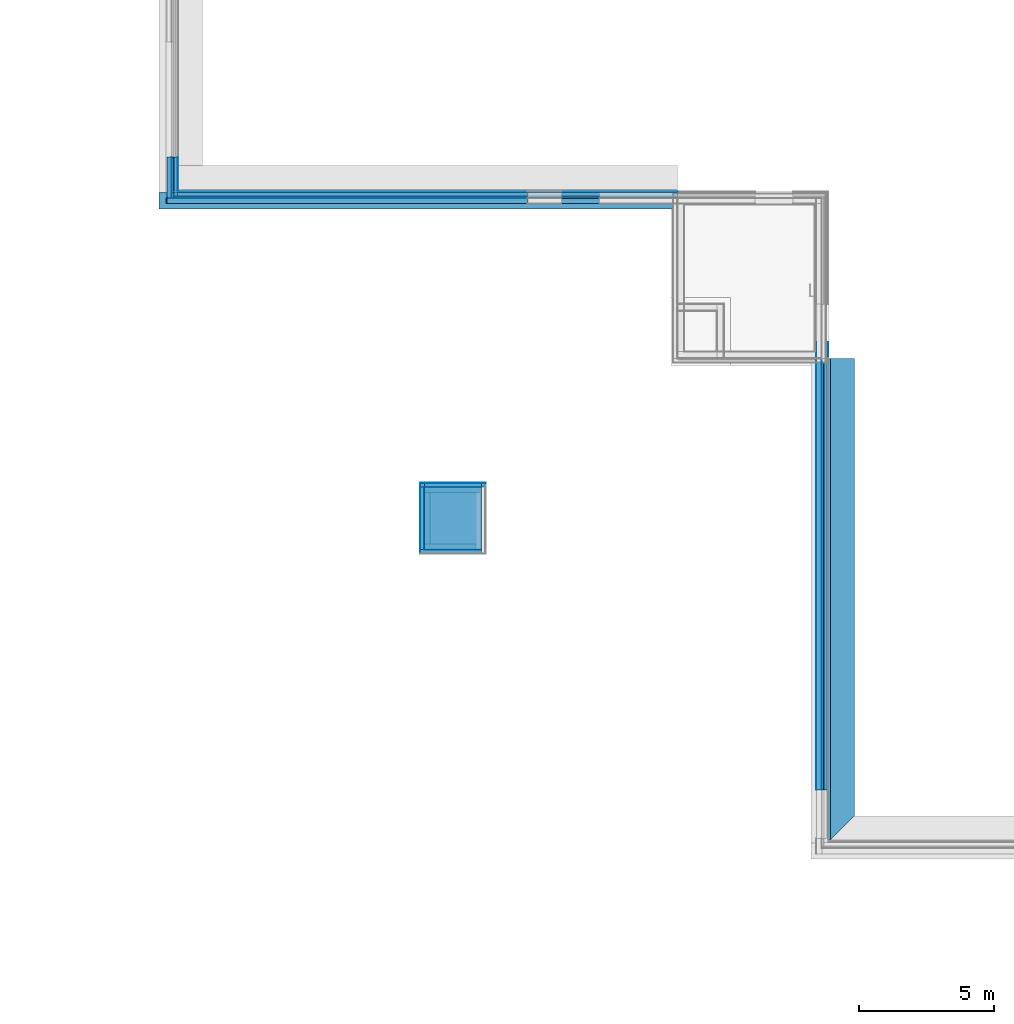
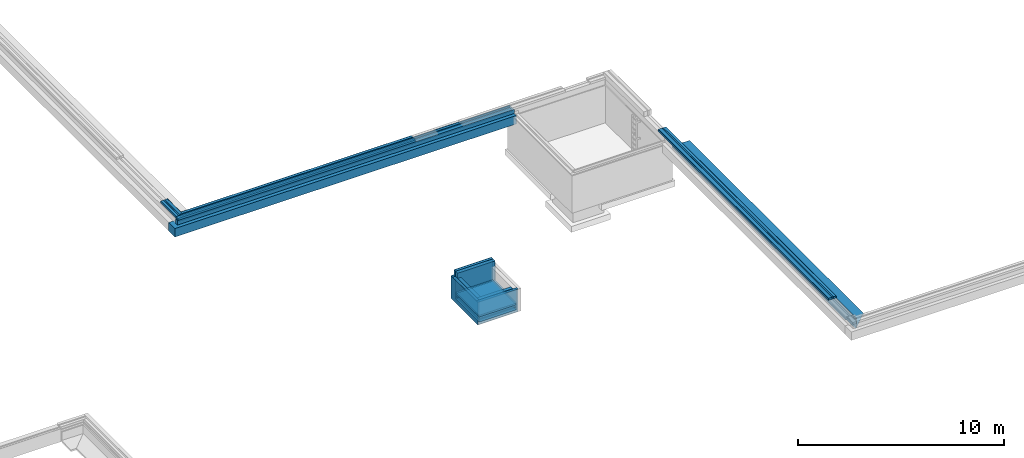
# One storey, part 6 of 17: 44 building element parts, 9 elements without a shape of their own.
"""IFC2X3 building model written with IfcOpenShell, lengths in millimetres."""

from ifc_helpers import new_model, entity, si_unit, converted_unit, derived_unit, money_unit, direction, frame, origin_with_axes, place, context, subcontext, project, spatial, faceted_brep, material, type_object, element, aggregate, save


model = new_model("IFC2X3")

# Units and contexts
model_context = context("Model", 3, precision=0.01, world=origin_with_axes(), true_north=direction((0.0, 1.0)))
body_context = subcontext(model_context, "Body", "Model", "MODEL_VIEW")
ifc_project = project(units=[si_unit("LENGTHUNIT", "METRE", prefix="MILLI"), si_unit("AREAUNIT", "SQUARE_METRE"), si_unit("VOLUMEUNIT", "CUBIC_METRE"), converted_unit("PLANEANGLEUNIT", "DEGREE", entity("IfcPlaneAngleMeasure", 0.0174532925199), si_unit("PLANEANGLEUNIT", "RADIAN"), dimensions=[0, 0, 0, 0, 0, 0, 0]), money_unit("EUR"), converted_unit("TIMEUNIT", "Year", entity("IfcTimeMeasure", 31556926.0), si_unit("TIMEUNIT", "SECOND"), dimensions=[0, 0, 1, 0, 0, 0, 0]), si_unit("MASSUNIT", "GRAM", prefix="KILO"), si_unit("THERMODYNAMICTEMPERATUREUNIT", "DEGREE_CELSIUS"), si_unit("LUMINOUSINTENSITYUNIT", "LUMEN"), si_unit("ENERGYUNIT", "JOULE", prefix="MEGA"), derived_unit("THERMALCONDUCTANCEUNIT", [(si_unit("POWERUNIT", "WATT"), 1), (si_unit("LENGTHUNIT", "METRE"), -1), (si_unit("THERMODYNAMICTEMPERATUREUNIT", "KELVIN"), -1)]), derived_unit("SPECIFICHEATCAPACITYUNIT", [(si_unit("ENERGYUNIT", "JOULE"), 1), (si_unit("MASSUNIT", "GRAM", prefix="KILO"), -1), (si_unit("THERMODYNAMICTEMPERATUREUNIT", "KELVIN"), -1)]), derived_unit("MASSDENSITYUNIT", [(si_unit("MASSUNIT", "GRAM", prefix="KILO"), 1), (si_unit("VOLUMEUNIT", "CUBIC_METRE"), -1)])], contexts=[model_context])

# Site, building, storey
site_placement = place(None, origin_with_axes())
site = spatial("IfcSite", under=ifc_project, at=site_placement, Name="Kolde pst 67a", CompositionType="ELEMENT")
building_placement = place(site_placement, origin_with_axes())
building = spatial("IfcBuilding", under=site, at=building_placement, Name="Riigigümnaasium", CompositionType="ELEMENT")
storey_placement = place(building_placement, frame((0.0, 0.0, -1500.0), z_axis=(0.0, 0.0, 1.0), x_axis=(1.0, 0.0, 0.0)))
storey = spatial("IfcBuildingStorey", under=building, at=storey_placement, Name="Vundament", CompositionType="ELEMENT", Elevation=-1500.0)

# Wall, building element parts
wall_type_1 = type_object("IfcWallType", Name="VS-RB-20/3_lintvundament 363", PredefinedType="NOTDEFINED")
wall_1_placement = place(storey_placement, frame((45774.9854607, 49769.9999599, -135.3), z_axis=(0.0, 0.0, 1.0), x_axis=(1.0, 0.0, 0.0)))
wall_1 = element("IfcWall", 1, at=wall_1_placement, inside=storey, type_object=wall_type_1, Name="Liftišaht")
ifc_material_1 = material(Name="_ALUSKATE - drenaaži- ja kaitsematt geotekstiiliga soojustuse kaitseks, Interplast Iso-Drain 8 Geo või samaväärne")
building_element_part_1_placement = place(wall_1_placement, origin_with_axes())
building_element_part_1 = element("IfcBuildingElementPart", 2, at=building_element_part_1_placement, material=ifc_material_1, Name="_ALUSKATE - drenaaži- ja kaitsematt geotekstiiliga soojustuse kaitseks, Interplast Iso-Drain 8 Geo või samaväärne", context=body_context, shape_type="Brep", body=[
    faceted_brep([(2100.0, 163.0, 1635.30000148), (2100.0, 163.0, 1335.1), (2263.00000811, 163.0, 1335.1), (2263.00000811, 163.0, 0.0), (-163.000008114, 163.0, 0.0), (-163.000008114, 163.0, 1335.1), (0.0, 163.0, 1335.1), (0.0, 163.0, 1635.30000148), (2100.0, 153.000001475, 1635.30000148), (2100.0, 153.000001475, 1335.1), (2263.00000811, 153.000001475, 1335.1), (2263.00000811, 153.0, 0.0), (-163.000008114, 153.0, 0.0), (-163.000008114, 153.000001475, 1335.1), (0.0, 153.000001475, 1335.1), (0.0, 153.000001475, 1635.30000148)], [[[0, 1, 2, 3, 4, 5, 6, 7]], [[1, 0, 8, 9]], [[10, 2, 1, 9]], [[2, 10, 11, 3]], [[12, 4, 3, 11]], [[13, 5, 4, 12]], [[6, 5, 13, 14]], [[15, 7, 6, 14]], [[8, 0, 7, 15]], [[9, 8, 15, 14, 13, 12, 11, 10]]]),
])
ifc_material_2 = material(Name="_SOOJUSTUS - vahtpolüstüreenplaadid EPS 120 Perimeeter, survetugevus min. 120kPa, veeimavus <2%, soojuserijuhtivus λD<0,036 W/(mK)")
building_element_part_2_placement = place(wall_1_placement, origin_with_axes())
building_element_part_2 = element("IfcBuildingElementPart", 3, at=building_element_part_2_placement, material=ifc_material_2, Name="_SOOJUSTUS - vahtpolüstüreenplaadid EPS 120 Perimeeter, survetugevus min. 120kPa, veeimavus <2%, soojuserijuhtivus λD<0,036 W/(mK)", context=body_context, shape_type="Brep", body=[
    faceted_brep([(-153.0, 153.0, 0.0), (-153.0, 153.000001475, 1335.1), (0.0, 153.000001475, 1335.1), (0.0, 153.000001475, 1635.30000148), (2100.0, 153.000001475, 1635.30000148), (2100.0, 153.000001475, 1335.1), (2253.0, 153.000001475, 1335.1), (2253.0, 153.0, 0.0), (-153.0, 3.00000196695, 1335.1), (-153.0, 3.0, 0.0), (0.0, 3.00000196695, 1335.1), (0.0, 3.00000196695, 1635.30000148), (2100.0, 3.00000196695, 1635.30000148), (2100.0, 3.00000196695, 1335.1), (2253.0, 3.00000196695, 1335.1), (2253.0, 3.0, 0.0)], [[[0, 1, 2, 3, 4, 5, 6, 7]], [[8, 1, 0, 9]], [[1, 8, 10, 2]], [[10, 11, 3, 2]], [[11, 12, 4, 3]], [[13, 5, 4, 12]], [[14, 6, 5, 13]], [[7, 6, 14, 15]], [[9, 0, 7, 15]], [[8, 9, 15, 14, 13, 12, 11, 10]]]),
])
ifc_material_3 = material(Name="_HÜDROISOLATSIOON - 3x SBS rullmaterjal vastavalt TL2 nõuetele, nakke tugevduseks betoonpind eelnevalt katta hüdroisolatsiooni bituumenvõõbaga")
building_element_part_3_placement = place(wall_1_placement, origin_with_axes())
building_element_part_3 = element("IfcBuildingElementPart", 4, at=building_element_part_3_placement, material=ifc_material_3, Name="_HÜDROISOLATSIOON - 3x SBS rullmaterjal vastavalt TL2 nõuetele, nakke tugevduseks betoonpind eelnevalt katta hüdroisolatsiooni bituumenvõõbaga", context=body_context, shape_type="Brep", body=[
    faceted_brep([(2103.0, 3.0, 0.0), (-3.0, 3.0, 0.0), (-3.0, 3.00000196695, 1335.1), (0.0, 3.00000196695, 1335.1), (0.0, 3.00000196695, 1635.30000148), (2100.0, 3.00000196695, 1635.30000148), (2100.0, 3.00000196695, 1335.1), (2103.0, 3.00000196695, 1335.1), (2103.0, 0.0, 0.0), (-3.0, 0.0, 0.0), (-3.0, -2.45869102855e-06, 1335.1), (0.0, -2.45869102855e-06, 1335.1), (0.0, -2.45869102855e-06, 1635.30000148), (2100.0, -2.45869102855e-06, 1635.30000148), (2100.0, -2.45869102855e-06, 1335.1), (2103.0, -2.45869102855e-06, 1335.1)], [[[0, 1, 2, 3, 4, 5, 6, 7]], [[8, 9, 1, 0]], [[9, 10, 2, 1]], [[3, 2, 10, 11]], [[3, 11, 12, 4]], [[4, 12, 13, 5]], [[13, 14, 6, 5]], [[14, 15, 7, 6]], [[8, 0, 7, 15]], [[11, 10, 9, 8, 15, 14, 13, 12]]]),
])
ifc_material_4 = material(Name="_KANDETARIND - monoliitne raudbetoon vastavalt EK osale")
building_element_part_4_placement = place(wall_1_placement, origin_with_axes())
building_element_part_4 = element("IfcBuildingElementPart", 5, at=building_element_part_4_placement, material=ifc_material_4, Name="_KANDETARIND - monoliitne raudbetoon vastavalt EK osale", context=body_context, shape_type="Brep", body=[
    faceted_brep([(2100.0, -200.0, 515.3), (2100.0, 0.0, 515.3), (2100.0, -2.45869102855e-06, 1635.30000148), (2100.0, -200.0, 1635.30000148), (2100.0, -200.0, 1335.1), (-2.18271622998e-07, 0.0, 515.3), (-2.18271622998e-07, -200.0, 515.3), (0.0, -2.45869102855e-06, 1635.30000148), (0.0, -200.0, 1635.30000148), (0.0, -200.0, 1335.1)], [[[0, 1, 2, 3, 4]], [[5, 1, 0, 6]], [[1, 5, 7, 2]], [[7, 8, 3, 2]], [[6, 0, 4, 3, 8, 9]], [[5, 6, 9, 8, 7]]]),
])
aggregate(wall_1, [building_element_part_1, building_element_part_2, building_element_part_3, building_element_part_4])

wall_2_placement = place(storey_placement, frame((47874.9854607, 47469.9999599, -135.3), z_axis=(0.0, 0.0, 1.0), x_axis=(-1.0, 0.0, 0.0)))
wall_2 = element("IfcWall", 6, at=wall_2_placement, inside=storey, type_object=wall_type_1, Name="Liftišaht")
building_element_part_5_placement = place(wall_2_placement, origin_with_axes())
building_element_part_5 = element("IfcBuildingElementPart", 7, at=building_element_part_5_placement, material=ifc_material_2, Name="_SOOJUSTUS - vahtpolüstüreenplaadid EPS 120 Perimeeter, survetugevus min. 120kPa, veeimavus <2%, soojuserijuhtivus λD<0,036 W/(mK)", context=body_context, shape_type="Brep", body=[
    faceted_brep([(2253.0, 153.0, 1335.1), (-3.0, 153.0, 1335.1), (-3.0, 3.0, 1335.1), (2253.0, 3.0, 1335.1), (2253.0, 153.0, 0.0), (-3.0, 153.0, 0.0), (-3.0, 3.0, 0.0), (2253.0, 3.0, 0.0)], [[[0, 1, 2, 3]], [[4, 5, 1, 0]], [[2, 1, 5, 6]], [[3, 2, 6, 7]], [[3, 7, 4, 0]], [[7, 6, 5, 4]]]),
])
building_element_part_6_placement = place(wall_2_placement, origin_with_axes())
building_element_part_6 = element("IfcBuildingElementPart", 8, at=building_element_part_6_placement, material=ifc_material_3, Name="_HÜDROISOLATSIOON - 3x SBS rullmaterjal vastavalt TL2 nõuetele, nakke tugevduseks betoonpind eelnevalt katta hüdroisolatsiooni bituumenvõõbaga", context=body_context, shape_type="Brep", body=[
    faceted_brep([(2103.0, 0.0, 1335.1), (2103.0, 3.0, 1335.1), (0.0, 3.0, 1335.1), (0.0, 0.0, 1335.1), (2103.0, 0.0, 0.0), (2103.0, 3.0, 0.0), (0.0, 3.0, 0.0), (0.0, 0.0, 0.0)], [[[0, 1, 2, 3]], [[1, 0, 4, 5]], [[1, 5, 6, 2]], [[7, 3, 2, 6]], [[4, 0, 3, 7]], [[5, 4, 7, 6]]]),
])
building_element_part_7_placement = place(wall_2_placement, origin_with_axes())
building_element_part_7 = element("IfcBuildingElementPart", 9, at=building_element_part_7_placement, material=ifc_material_4, Name="_KANDETARIND - monoliitne raudbetoon vastavalt EK osale", context=body_context, shape_type="Brep", body=[
    faceted_brep([(200.0, 0.0, 515.3), (200.0, -200.0, 515.3), (200.0, -200.0, 1335.1), (200.0, 0.0, 1335.1), (2100.00000022, -200.0, 515.3), (2100.00000022, 0.0, 515.3), (2100.0, -200.0, 1335.1), (2100.0, 0.0, 1335.1)], [[[0, 1, 2, 3]], [[4, 1, 0, 5]], [[1, 4, 6, 2]], [[6, 7, 3, 2]], [[5, 0, 3, 7]], [[4, 5, 7, 6]]]),
])
aggregate(wall_2, [building_element_part_5, building_element_part_6, building_element_part_7])

wall_3_placement = place(storey_placement, frame((45774.9854607, 47469.9999599, -135.3), z_axis=(0.0, 0.0, 1.0), x_axis=(0.0, 1.0, 0.0)))
wall_3 = element("IfcWall", 10, at=wall_3_placement, inside=storey, type_object=wall_type_1, Name="Liftišaht")
building_element_part_8_placement = place(wall_3_placement, origin_with_axes())
building_element_part_8 = element("IfcBuildingElementPart", 11, at=building_element_part_8_placement, material=ifc_material_1, Name="_ALUSKATE - drenaaži- ja kaitsematt geotekstiiliga soojustuse kaitseks, Interplast Iso-Drain 8 Geo või samaväärne", context=body_context, shape_type="Brep", body=[
    faceted_brep([(2453.0, 163.0, 1335.1), (-153.0, 163.0, 1335.1), (-153.0, 153.0, 1335.1), (2453.0, 153.0, 1335.1), (2453.0, 163.0, 0.0), (-153.0, 163.0, 0.0), (-153.0, 153.0, 0.0), (2453.0, 153.0, 0.0)], [[[0, 1, 2, 3]], [[4, 5, 1, 0]], [[2, 1, 5, 6]], [[3, 2, 6, 7]], [[3, 7, 4, 0]], [[7, 6, 5, 4]]]),
])
building_element_part_9_placement = place(wall_3_placement, origin_with_axes())
building_element_part_9 = element("IfcBuildingElementPart", 12, at=building_element_part_9_placement, material=ifc_material_2, Name="_SOOJUSTUS - vahtpolüstüreenplaadid EPS 120 Perimeeter, survetugevus min. 120kPa, veeimavus <2%, soojuserijuhtivus λD<0,036 W/(mK)", context=body_context, shape_type="Brep", body=[
    faceted_brep([(2303.0, 153.0, 1335.1), (-3.0, 153.0, 1335.1), (-3.0, 3.0, 1335.1), (2303.0, 3.0, 1335.1), (2303.0, 153.0, 0.0), (-3.0, 153.0, 0.0), (-3.0, 3.0, 0.0), (2303.0, 3.0, 0.0)], [[[0, 1, 2, 3]], [[4, 5, 1, 0]], [[2, 1, 5, 6]], [[3, 2, 6, 7]], [[3, 7, 4, 0]], [[7, 6, 5, 4]]]),
])
building_element_part_10_placement = place(wall_3_placement, origin_with_axes())
building_element_part_10 = element("IfcBuildingElementPart", 13, at=building_element_part_10_placement, material=ifc_material_3, Name="_HÜDROISOLATSIOON - 3x SBS rullmaterjal vastavalt TL2 nõuetele, nakke tugevduseks betoonpind eelnevalt katta hüdroisolatsiooni bituumenvõõbaga", context=body_context, shape_type="Brep", body=[
    faceted_brep([(2300.0, 0.0, 1335.1), (2300.0, 3.0, 1335.1), (0.0, 3.0, 1335.1), (0.0, 0.0, 1335.1), (2300.0, 0.0, 0.0), (2300.0, 3.0, 0.0), (0.0, 3.0, 0.0), (0.0, 0.0, 0.0)], [[[0, 1, 2, 3]], [[1, 0, 4, 5]], [[1, 5, 6, 2]], [[7, 3, 2, 6]], [[4, 0, 3, 7]], [[5, 4, 7, 6]]]),
])
building_element_part_11_placement = place(wall_3_placement, origin_with_axes())
building_element_part_11 = element("IfcBuildingElementPart", 14, at=building_element_part_11_placement, material=ifc_material_4, Name="_KANDETARIND - monoliitne raudbetoon vastavalt EK osale", context=body_context, shape_type="Brep", body=[
    faceted_brep([(200.0, -200.0, 515.3), (2100.0, -200.0, 515.3), (2100.0, -200.0, 1335.1), (200.0, -200.0, 1335.1), (2100.0, 2.18271622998e-07, 515.3), (200.0, 2.18271622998e-07, 515.3), (2100.0, 0.0, 1335.1), (200.0, 0.0, 1335.1)], [[[0, 1, 2, 3]], [[4, 1, 0, 5]], [[1, 4, 6, 2]], [[2, 6, 7, 3]], [[5, 0, 3, 7]], [[4, 5, 7, 6]]]),
])
aggregate(wall_3, [building_element_part_8, building_element_part_9, building_element_part_10, building_element_part_11])

# Slab, building element parts
slab_type = type_object("IfcSlabType", Name="PP-RBM-10/1_EPS 200 500", PredefinedType="NOTDEFINED")
slab_placement = place(storey_placement, frame((45774.9854605, 47469.9999599, 380.0), z_axis=(0.0, 0.0, 1.0), x_axis=(1.0, 0.0, 0.0)))
slab = element("IfcSlab", 15, at=slab_placement, inside=storey, type_object=slab_type, Name="Liftišaht", PredefinedType="NOTDEFINED")
ifc_material_5 = material(Name="_PEALEVALUKIHT - raudbetoonplaat vastavalt EK osale, vajadusel põrandküte")
building_element_part_12_placement = place(slab_placement, origin_with_axes())
building_element_part_12 = element("IfcBuildingElementPart", 16, at=building_element_part_12_placement, material=ifc_material_5, Name="_PEALEVALUKIHT - raudbetoonplaat vastavalt EK osale, vajadusel põrandküte", context=body_context, shape_type="Brep", body=[
    faceted_brep([(2100.00000022, 0.0, -100.0), (2100.00000022, 0.0, 0.0), (0.0, 0.0, 0.0), (0.0, 0.0, -100.0), (2100.00000022, 2300.0, -100.0), (2100.00000022, 2300.0, 0.0), (0.0, 2300.0, 0.0), (0.0, 2300.0, -100.0)], [[[0, 1, 2, 3]], [[4, 5, 1, 0]], [[2, 1, 5, 6]], [[3, 2, 6, 7]], [[3, 7, 4, 0]], [[7, 6, 5, 4]]]),
])
ifc_material_6 = material(Name="_ERALDUSKIHT - polüetüleenkile 0,2mm, vuugid ülekattega 200mm ja teibitud")
building_element_part_13_placement = place(slab_placement, origin_with_axes())
building_element_part_13 = element("IfcBuildingElementPart", 17, at=building_element_part_13_placement, material=ifc_material_6, Name="_ERALDUSKIHT - polüetüleenkile 0,2mm, vuugid ülekattega 200mm ja teibitud", context=body_context, shape_type="Brep", body=[
    faceted_brep([(2100.00000022, 0.0, -100.1), (2100.00000022, 0.0, -100.0), (0.0, 0.0, -100.0), (0.0, 0.0, -100.1), (2100.00000022, 2300.0, -100.1), (2100.00000022, 2300.0, -100.0), (0.0, 2300.0, -100.0), (0.0, 2300.0, -100.1)], [[[0, 1, 2, 3]], [[4, 5, 1, 0]], [[2, 1, 5, 6]], [[3, 2, 6, 7]], [[3, 7, 4, 0]], [[7, 6, 5, 4]]]),
])
ifc_material_7 = material(Name="_SOOJUSTUS - vahtpolüstüreenplaadid EPS 120 Perimeeter, survetugevus min 120kPa, veeimavus <2%, soojuserijuhtivus λD<0,036 W/(mK)")
building_element_part_14_placement = place(slab_placement, origin_with_axes())
building_element_part_14 = element("IfcBuildingElementPart", 18, at=building_element_part_14_placement, material=ifc_material_7, Name="_SOOJUSTUS - vahtpolüstüreenplaadid EPS 120 Perimeeter, survetugevus min 120kPa, veeimavus <2%, soojuserijuhtivus λD<0,036 W/(mK)", context=body_context, shape_type="Brep", body=[
    faceted_brep([(2100.00000022, 0.0, -200.1), (2100.00000022, 0.0, -100.1), (0.0, 0.0, -100.1), (0.0, 0.0, -200.1), (2100.00000022, 2300.0, -200.1), (2100.00000022, 2300.0, -100.1), (0.0, 2300.0, -100.1), (0.0, 2300.0, -200.1)], [[[0, 1, 2, 3]], [[4, 5, 1, 0]], [[2, 1, 5, 6]], [[3, 2, 6, 7]], [[3, 7, 4, 0]], [[7, 6, 5, 4]]]),
])
ifc_material_8 = material(Name="_ERALDUSKIHT - radoonitõkkekile/-membraan LEKU 280g/m² või samaväärne")
building_element_part_15_placement = place(slab_placement, origin_with_axes())
building_element_part_15 = element("IfcBuildingElementPart", 19, at=building_element_part_15_placement, material=ifc_material_8, Name="_ERALDUSKIHT - radoonitõkkekile/-membraan LEKU 280g/m² või samaväärne", context=body_context, shape_type="Brep", body=[
    faceted_brep([(2100.00000022, 0.0, -200.2), (2100.00000022, 0.0, -200.1), (0.0, 0.0, -200.1), (0.0, 0.0, -200.2), (2100.00000022, 2300.0, -200.2), (2100.00000022, 2300.0, -200.1), (0.0, 2300.0, -200.1), (0.0, 2300.0, -200.2)], [[[0, 1, 2, 3]], [[4, 5, 1, 0]], [[2, 1, 5, 6]], [[3, 2, 6, 7]], [[3, 7, 4, 0]], [[7, 6, 5, 4]]]),
])
building_element_part_16_placement = place(slab_placement, origin_with_axes())
building_element_part_16 = element("IfcBuildingElementPart", 20, at=building_element_part_16_placement, material=ifc_material_7, Name="_SOOJUSTUS - vahtpolüstüreenplaadid EPS 120 Perimeeter, survetugevus min 120kPa, veeimavus <2%, soojuserijuhtivus λD<0,036 W/(mK)", context=body_context, shape_type="Brep", body=[
    faceted_brep([(2100.00000022, 0.0, -300.2), (2100.00000022, 0.0, -200.2), (0.0, 0.0, -200.2), (0.0, 0.0, -300.2), (2100.00000022, 2300.0, -300.2), (2100.00000022, 2300.0, -200.2), (0.0, 2300.0, -200.2), (0.0, 2300.0, -300.2)], [[[0, 1, 2, 3]], [[4, 5, 1, 0]], [[2, 1, 5, 6]], [[3, 2, 6, 7]], [[3, 7, 4, 0]], [[7, 6, 5, 4]]]),
])
ifc_material_9 = material(Name="_TÄIDE - tasandus-/tugevduskiht, pinnasesse tambitud killustik E=80MPa, kiilutud fr 4/16")
building_element_part_17_placement = place(slab_placement, origin_with_axes())
building_element_part_17 = element("IfcBuildingElementPart", 21, at=building_element_part_17_placement, material=ifc_material_9, Name="_TÄIDE - tasandus-/tugevduskiht, pinnasesse tambitud killustik E=80MPa, kiilutud fr 4/16", context=body_context, shape_type="Brep", body=[
    faceted_brep([(2100.00000022, 0.0, -350.2), (2100.00000022, 0.0, -300.2), (0.0, 0.0, -300.2), (0.0, 0.0, -350.2), (2100.00000022, 2300.0, -350.2), (2100.00000022, 2300.0, -300.2), (0.0, 2300.0, -300.2), (0.0, 2300.0, -350.2)], [[[0, 1, 2, 3]], [[4, 5, 1, 0]], [[2, 1, 5, 6]], [[3, 2, 6, 7]], [[3, 7, 4, 0]], [[7, 6, 5, 4]]]),
])
ifc_material_10 = material(Name="_TÄIDE - tasandus-/tugevduskiht, pinnasesse tambitud killustik E=80MPa, fr 16/32")
building_element_part_18_placement = place(slab_placement, origin_with_axes())
building_element_part_18 = element("IfcBuildingElementPart", 22, at=building_element_part_18_placement, material=ifc_material_10, Name="_TÄIDE - tasandus-/tugevduskiht, pinnasesse tambitud killustik E=80MPa, fr 16/32", context=body_context, shape_type="Brep", body=[
    faceted_brep([(2100.00000022, 0.0, -500.2), (2100.00000022, 0.0, -350.2), (0.0, 0.0, -350.2), (0.0, 0.0, -500.2), (2100.00000022, 2300.0, -500.2), (2100.00000022, 2300.0, -350.2), (0.0, 2300.0, -350.2), (0.0, 2300.0, -500.2)], [[[0, 1, 2, 3]], [[4, 5, 1, 0]], [[2, 1, 5, 6]], [[3, 2, 6, 7]], [[3, 7, 4, 0]], [[7, 6, 5, 4]]]),
])
ifc_material_11 = material(Name="_PINNAS - tihendatud mineraalne tagasitäide või olemasolev pinnas, tihendusaste 92%, Emax/E1 <2.8 (vastavalt MaaRYL2010 klassile 2)")
building_element_part_19_placement = place(slab_placement, origin_with_axes())
building_element_part_19 = element("IfcBuildingElementPart", 23, at=building_element_part_19_placement, material=ifc_material_11, Name="_PINNAS - tihendatud mineraalne tagasitäide või olemasolev pinnas, tihendusaste 92%, Emax/E1 <2.8 (vastavalt MaaRYL2010 klassile 2)", context=body_context, shape_type="Brep", body=[
    faceted_brep([(0.0, 0.0, -500.3), (2100.00000022, 0.0, -500.3), (2100.00000022, 0.0, -500.2), (0.0, 0.0, -500.2), (0.0, 2300.0, -500.3), (2100.00000022, 2300.0, -500.3), (2100.00000022, 2300.0, -500.2), (0.0, 2300.0, -500.2)], [[[0, 1, 2, 3]], [[0, 4, 5, 1]], [[1, 5, 6, 2]], [[3, 2, 6, 7]], [[4, 0, 3, 7]], [[5, 4, 7, 6]]]),
])
aggregate(slab, [building_element_part_12, building_element_part_13, building_element_part_14, building_element_part_15, building_element_part_16, building_element_part_17, building_element_part_18, building_element_part_19])

# Wall, building element parts
wall_type_2 = type_object("IfcWallType", Name="Lintvundament 1602 x 765", PredefinedType="NOTDEFINED")
wall_4_placement = place(storey_placement, frame((60439.9941222, 36439.9996998, 1479.99999851), z_axis=(0.0, 0.0, 1.0), x_axis=(0.0, 1.0, 0.0)))
wall_4 = element("IfcWall", 24, at=wall_4_placement, inside=storey, type_object=wall_type_2, Name="Vundament")
building_element_part_20_placement = place(wall_4_placement, origin_with_axes())
building_element_part_20 = element("IfcBuildingElementPart", 25, at=building_element_part_20_placement, material=ifc_material_1, Name="_ALUSKATE - drenaaži- ja kaitsematt geotekstiiliga soojustuse kaitseks, Interplast Iso-Drain 8 Geo või samaväärne", context=body_context, shape_type="Brep", body=[
    faceted_brep([(313.057437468, -245.000004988, -137.030569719), (313.057437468, -313.057436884, -137.030569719), (18080.0003586, -313.057436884, -137.030570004), (18080.0003586, -245.000004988, -137.030570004), (313.057437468, -234.999993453, -137.030569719), (313.057437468, -234.999993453, -146.999999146), (313.057437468, -303.057440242, -146.999999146), (313.057436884, -303.057440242, -633.422240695), (313.057436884, -313.057436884, -633.771447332), (18080.0003586, -313.057436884, -633.771447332), (18080.0003586, -303.057440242, -633.422236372), (18080.0003586, -303.057440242, -146.999992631), (18080.0003586, -234.999993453, -146.999992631), (18080.0003586, -234.999993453, -29.9999946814), (18080.0003586, -245.000004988, -29.9999946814), (245.000004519, -245.000004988, -137.030569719), (245.000004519, -245.000004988, -29.9999946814), (245.000004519, -234.999993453, -137.030569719), (245.000004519, -234.999993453, -29.9999946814)], [[[0, 1, 2, 3]], [[1, 0, 4, 5, 6, 7, 8]], [[1, 8, 9, 2]], [[10, 11, 12, 13, 14, 3, 2, 9]], [[15, 0, 3, 14, 16]], [[0, 15, 17, 4]], [[17, 18, 13, 12, 5, 4]], [[6, 5, 12, 11]], [[11, 10, 7, 6]], [[8, 7, 10, 9]], [[18, 16, 14, 13]], [[15, 16, 18, 17]]]),
])
building_element_part_21_placement = place(wall_4_placement, origin_with_axes())
building_element_part_21 = element("IfcBuildingElementPart", 26, at=building_element_part_21_placement, material=ifc_material_7, Name="_SOOJUSTUS - vahtpolüstüreenplaadid EPS 120 Perimeeter, survetugevus min 120kPa, veeimavus <2%, soojuserijuhtivus λD<0,036 W/(mK)", context=body_context, shape_type="Brep", body=[
    faceted_brep([(203.057444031, -203.057444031, -629.93015656), (313.057436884, -313.057436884, -633.771447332), (18080.0003586, -313.057436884, -633.771447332), (18080.0003586, -203.057444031, -629.93015656), (313.057436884, -203.057444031, -633.771447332), (1202.46588158, -1202.46588158, -664.830269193), (18080.0003586, -1202.46588158, -664.830269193), (18080.0003586, -1198.97593138, -764.769370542), (18080.0003586, -203.057444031, -729.999997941), (1200.19010466, -203.057444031, -729.999995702), (1202.46588158, -203.057444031, -664.830269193), (1198.97593138, -1198.97593138, -764.769370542)], [[[0, 1, 2, 3]], [[1, 0, 4]], [[1, 5, 6, 2]], [[7, 8, 3, 2, 6]], [[0, 3, 8, 9, 10, 4]], [[1, 4, 10, 5]], [[5, 11, 7, 6]], [[9, 8, 7, 11]], [[5, 10, 9, 11]]]),
])
aggregate(wall_4, [building_element_part_20, building_element_part_21])

wall_5_placement = place(storey_placement, frame((55116.9820755, 60440.0001843, 1479.99999851), z_axis=(0.0, 0.0, 1.0), x_axis=(-1.0, 0.0, 0.0)))
wall_5 = element("IfcWall", 27, at=wall_5_placement, inside=storey, type_object=wall_type_2, Name="Vundament")
building_element_part_22_placement = place(wall_5_placement, origin_with_axes())
building_element_part_22 = element("IfcBuildingElementPart", 28, at=building_element_part_22_placement, material=ifc_material_4, Name="_KANDETARIND - monoliitne raudbetoon vastavalt EK osale", context=body_context, shape_type="Brep", body=[
    faceted_brep([(4274.51570576, 0.0, -1.99999850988), (2884.14756088, 0.0, -1.99999850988), (2884.14756088, 0.0, -9.40665323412e-08), (0.0, 0.0, 0.0), (0.0, 0.0, -250.0), (18876.9828352, 0.0, -249.99999803), (18876.9828352, 0.0, -6.15673068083e-07), (4274.51570576, 0.0, -1.39413369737e-07), (4274.51570576, 200.0, -1.99999850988), (2884.14756088, 200.0, -1.99999850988), (2884.14756088, 200.0, -9.40665323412e-08), (0.0, 200.0, 0.0), (0.0, 200.0, -250.0), (0.0, 399.942555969, -250.0), (0.0, 399.942555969, -750.0), (0.0, -200.057444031, -750.0), (0.0, -200.057444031, -250.0), (19136.9253972, -200.057444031, -249.99999803), (19136.9253972, 200.0, -249.99999803), (18876.9828352, 200.0, -249.99999803), (18876.9828352, 200.0, -6.15673068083e-07), (4274.51570576, 200.0, -1.39413369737e-07), (19136.9253972, 399.942555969, -249.99999803), (19136.9253972, 399.942555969, -749.999995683), (19136.9253972, -200.057444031, -750.000004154)], [[[0, 1, 2, 3, 4, 5, 6, 7]], [[1, 0, 8, 9]], [[10, 2, 1, 9]], [[2, 10, 11, 3]], [[12, 13, 14, 15, 16, 4, 3, 11]], [[16, 17, 18, 19, 5, 4]], [[19, 20, 6, 5]], [[21, 7, 6, 20]], [[0, 7, 21, 8]], [[8, 21, 20, 19, 12, 11, 10, 9]], [[19, 18, 22, 13, 12]], [[13, 22, 23, 14]], [[14, 23, 24, 15]], [[15, 24, 17, 16]], [[18, 17, 24, 23, 22]]]),
])
ifc_material_12 = material(Name="_SOOJUSTUS - ekstrudeeritud polüstüreenist plaadid XPS 250, survetugevus min 250kPa, soojuserijuhtivus λD<0,036 W/(mK), veeimavus alla 0,2%, näiteks XPS 250 foam SL või samaväärne")
building_element_part_23_placement = place(wall_5_placement, origin_with_axes())
building_element_part_23 = element("IfcBuildingElementPart", 29, at=building_element_part_23_placement, material=ifc_material_12, Name="_SOOJUSTUS - ekstrudeeritud polüstüreenist plaadid XPS 250, survetugevus min 250kPa, soojuserijuhtivus λD<0,036 W/(mK), veeimavus alla 0,2%, näiteks XPS 250 foam SL või samaväärne", context=body_context, shape_type="Brep", body=[
    faceted_brep([(18673.9828444, -73.0000017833, 6.88264223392e-07), (0.0, -73.0000017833, -3.76120340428e-06), (0.0, -73.0000017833, -146.999999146), (18673.9828444, -73.0000017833, -146.999999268), (18673.9828444, -3.00000241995, 6.88264223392e-07), (0.0, -3.00000241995, -3.7612034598e-06), (0.0, -3.00000241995, -146.999999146), (18673.9828444, -3.00000241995, -146.999999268)], [[[0, 1, 2, 3]], [[0, 4, 5, 1]], [[2, 1, 5, 6]], [[7, 3, 2, 6]], [[4, 0, 3, 7]], [[4, 7, 6, 5]]]),
])
building_element_part_24_placement = place(wall_5_placement, origin_with_axes())
building_element_part_24 = element("IfcBuildingElementPart", 30, at=building_element_part_24_placement, material=ifc_material_7, Name="_SOOJUSTUS - vahtpolüstüreenplaadid EPS 120 Perimeeter, survetugevus min 120kPa, veeimavus <2%, soojuserijuhtivus λD<0,036 W/(mK)", context=body_context, shape_type="Brep", body=[
    faceted_brep([(18603.9828431, -223.000000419, 0.0), (0.0, -223.000000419, -2.23078100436e-06), (0.0, -223.000000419, -146.999999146), (18603.9828431, -223.000000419, -146.99999851), (18603.9828431, -73.0000013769, 0.0), (0.0, -73.0000013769, -2.23078100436e-06), (0.0, -73.0000013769, -146.999999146), (18603.9828431, -73.0000013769, -146.99999851)], [[[0, 1, 2, 3]], [[0, 4, 5, 1]], [[1, 5, 6, 2]], [[7, 3, 2, 6]], [[4, 0, 3, 7]], [[4, 7, 6, 5]]]),
])
building_element_part_25_placement = place(wall_5_placement, origin_with_axes())
building_element_part_25 = element("IfcBuildingElementPart", 31, at=building_element_part_25_placement, material=ifc_material_7, Name="_SOOJUSTUS - vahtpolüstüreenplaadid EPS 120 Perimeeter, survetugevus min 120kPa, veeimavus <2%, soojuserijuhtivus λD<0,036 W/(mK)", context=body_context, shape_type="Brep", body=[
    faceted_brep([(18673.9828449, -303.057446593, -247.000006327), (18673.9828449, -303.057446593, -146.999999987), (0.0, -303.057446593, -146.99999851), (0.0, -303.057446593, -247.000001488), (18673.9828449, -3.00000241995, -146.999999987), (18673.9828449, -3.00000241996, -247.000006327), (0.0, -3.00000241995, -146.99999851), (0.0, -3.00000241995, -247.000001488)], [[[0, 1, 2, 3]], [[4, 1, 0, 5]], [[1, 4, 6, 2]], [[2, 6, 7, 3]], [[5, 0, 3, 7]], [[4, 5, 7, 6]]]),
])
ifc_material_13 = material(Name="_HÜDROISOLATSIOON - Bituumenvõõp COMBIFLEX-EL vastavalt TL2 nõuetele")
building_element_part_26_placement = place(wall_5_placement, origin_with_axes())
building_element_part_26 = element("IfcBuildingElementPart", 32, at=building_element_part_26_placement, material=ifc_material_13, Name="_HÜDROISOLATSIOON - Bituumenvõõp COMBIFLEX-EL vastavalt TL2 nõuetele", context=body_context, shape_type="Brep", body=[
    faceted_brep([(18676.9828455, -2.99999783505, -247.000002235), (18676.9828455, -2.99999783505, 0.0), (0.0, -2.99999783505, -2.35946218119e-06), (0.0, -2.99999783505, -246.999999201), (18676.9828455, 0.0, -250.0), (18676.9828455, 0.0, 0.0), (18676.9828455, -203.057435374, -247.000002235), (18676.9828455, -203.057435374, -250.0), (0.0, 0.0, 8.81641959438e-06), (0.0, -203.057435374, -246.999999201), (0.0, 0.0, -250.000008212), (0.0, -200.057437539, -250.000008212), (0.0, -200.057437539, -750.000008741), (0.0, -203.057435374, -750.000008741), (0.0, -203.057435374, -729.999997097), (18536.9254015, -203.057435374, -250.0), (18536.9254015, -203.057435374, -729.999995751), (18536.9254015, -200.057437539, -250.0), (18536.9254015, -200.057437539, -750.0), (18536.9254015, -203.057435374, -750.0)], [[[0, 1, 2, 3]], [[4, 5, 1, 0, 6, 7]], [[2, 1, 5, 8]], [[9, 3, 2, 8, 10, 11, 12, 13, 14]], [[9, 6, 0, 3]], [[8, 5, 4, 10]], [[15, 7, 6, 9, 14, 16]], [[10, 4, 7, 15, 17, 11]], [[11, 17, 18, 12]], [[12, 18, 19, 13]], [[13, 19, 16, 14]], [[18, 17, 15, 16, 19]]]),
])
ifc_material_14 = material(Name="_TUULETÕKE - sokli krohv, silikoonvaikkrohv Weber.pas 481 AquaBalance 1mm \"scratch\" viimistlus, toon helehall CL444 (S 3502-Y) * 35, SILS süsteem, või samaväärne")
building_element_part_27_placement = place(wall_5_placement, origin_with_axes())
building_element_part_27 = element("IfcBuildingElementPart", 33, at=building_element_part_27_placement, material=ifc_material_14, Name="_TUULETÕKE - sokli krohv, silikoonvaikkrohv Weber.pas 481 AquaBalance 1mm \"scratch\" viimistlus, toon helehall CL444 (S 3502-Y) * 35, SILS süsteem, või samaväärne", context=body_context, shape_type="Brep", body=[
    faceted_brep([(18453.9828419, -233.000002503, -30.0000036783), (18453.9828419, -233.000001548, 1.49012684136e-06), (0.0, -233.000001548, -1.37334277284e-06), (0.0, -233.000002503, -30.0000036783), (18453.9828419, -223.000001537, 1.49012684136e-06), (18453.9828419, -233.000001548, -146.999998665), (18453.9828419, -223.000001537, -146.999998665), (0.0, -223.000001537, -1.37334277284e-06), (0.0, -223.000001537, -146.999999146), (0.0, -233.000001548, -146.999999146)], [[[0, 1, 2, 3]], [[4, 1, 0, 5, 6]], [[1, 4, 7, 2]], [[3, 2, 7, 8, 9]], [[5, 0, 3, 9]], [[6, 5, 9, 8]], [[4, 6, 8, 7]]]),
])
ifc_material_15 = material(Name="_HÜDROISOLATSIOON - tsemendil baseeruv ühekomponentne hüdroisolatsioon hüdroisoleerimiseks sokli krohvi pealt, ülevärvitud silikoonvaikvärviga sokli krohvi tooni, Weber.tec 824 ja Weber.ton 411 AquaBalance toon CL444 (S 3502-Y) * 35 või samaväärne")
building_element_part_28_placement = place(wall_5_placement, origin_with_axes())
building_element_part_28 = element("IfcBuildingElementPart", 34, at=building_element_part_28_placement, material=ifc_material_15, Name="_HÜDROISOLATSIOON - tsemendil baseeruv ühekomponentne hüdroisolatsioon hüdroisoleerimiseks sokli krohvi pealt, ülevärvitud silikoonvaikvärviga sokli krohvi tooni, Weber.tec 824 ja Weber.ton 411 AquaBalance toon CL444 (S 3502-Y) * 35 või samaväärne", context=body_context, shape_type="Brep", body=[
    faceted_brep([(18443.9828449, -234.99999634, -146.999999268), (18443.9828456, -234.99999634, -30.0000036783), (0.0, -234.99999634, -29.9999946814), (0.0, -234.99999634, -146.999993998), (18443.9828456, -233.000002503, -30.0000036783), (18443.9828449, -233.000002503, -146.999999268), (0.0, -233.000002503, -30.0000036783), (0.0, -233.000002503, -147.000002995)], [[[0, 1, 2, 3]], [[4, 1, 0, 5]], [[1, 4, 6, 2]], [[3, 2, 6, 7]], [[5, 0, 3, 7]], [[4, 5, 7, 6]]]),
])
aggregate(wall_5, [building_element_part_22, building_element_part_23, building_element_part_24, building_element_part_25, building_element_part_26, building_element_part_27, building_element_part_28])

wall_type_3 = type_object("IfcWallType", Name="VS-RB-20/2_sokkel  443", PredefinedType="NOTDEFINED")
wall_6_placement = place(storey_placement, frame((60439.9941222, 38599.9808339, 1480.0), z_axis=(0.0, 0.0, 1.0), x_axis=(0.0, 1.0, 0.0)))
wall_6 = element("IfcWall", 35, at=wall_6_placement, inside=storey, type_object=wall_type_3, Name="Sokkel")
ifc_material_16 = material(Name="_VIIMISTLUSKIHT - viimistlus vastavalt SA osale")
building_element_part_29_placement = place(wall_6_placement, origin_with_axes())
building_element_part_29 = element("IfcBuildingElementPart", 36, at=building_element_part_29_placement, material=ifc_material_16, Name="_VIIMISTLUSKIHT - viimistlus vastavalt SA osale", context=body_context, shape_type="Brep", body=[
    faceted_brep([(16527.519008, 210.0, 0.0), (16527.519008, 200.0, 0.0), (0.0, 200.0, 0.0), (0.0, 210.0, 0.0), (16527.519008, 210.0, 120.0), (16527.519008, 200.0, 120.0), (0.0, 200.0, 120.0), (0.0, 210.0, 120.0)], [[[0, 1, 2, 3]], [[0, 4, 5, 1]], [[1, 5, 6, 2]], [[3, 2, 6, 7]], [[4, 0, 3, 7]], [[5, 4, 7, 6]]]),
])
ifc_material_17 = material(Name="_KANDETARIND - monteeritav raudbetoon vastavalt EK osale")
building_element_part_30_placement = place(wall_6_placement, origin_with_axes())
building_element_part_30 = element("IfcBuildingElementPart", 37, at=building_element_part_30_placement, material=ifc_material_17, Name="_KANDETARIND - monteeritav raudbetoon vastavalt EK osale", context=body_context, shape_type="Brep", body=[
    faceted_brep([(16527.519008, 200.0, 0.0), (16527.519008, 0.0, 0.0), (0.0, 0.0, 0.0), (0.0, 200.0, 0.0), (16527.519008, 200.0, 120.0), (16527.519008, 0.0, 120.0), (0.0, 0.0, 120.0), (0.0, 200.0, 120.0)], [[[0, 1, 2, 3]], [[0, 4, 5, 1]], [[1, 5, 6, 2]], [[3, 2, 6, 7]], [[4, 0, 3, 7]], [[5, 4, 7, 6]]]),
])
building_element_part_31_placement = place(wall_6_placement, origin_with_axes())
building_element_part_31 = element("IfcBuildingElementPart", 38, at=building_element_part_31_placement, material=ifc_material_3, Name="_HÜDROISOLATSIOON - 3x SBS rullmaterjal vastavalt TL2 nõuetele, nakke tugevduseks betoonpind eelnevalt katta hüdroisolatsiooni bituumenvõõbaga", context=body_context, shape_type="Brep", body=[
    faceted_brep([(16527.519008, 0.0, 0.0), (16527.519008, -3.0, 0.0), (0.0, -3.0, 0.0), (0.0, 0.0, 0.0), (16527.519008, 0.0, 120.0), (16527.519008, -3.0, 120.0), (0.0, -3.0, 120.0), (0.0, 0.0, 120.0)], [[[0, 1, 2, 3]], [[0, 4, 5, 1]], [[1, 5, 6, 2]], [[3, 2, 6, 7]], [[4, 0, 3, 7]], [[5, 4, 7, 6]]]),
])
building_element_part_32_placement = place(wall_6_placement, origin_with_axes())
building_element_part_32 = element("IfcBuildingElementPart", 39, at=building_element_part_32_placement, material=ifc_material_12, Name="_SOOJUSTUS - ekstrudeeritud polüstüreenist plaadid XPS 250, survetugevus min 250kPa, soojuserijuhtivus λD<0,036 W/(mK), veeimavus alla 0,2%, näiteks XPS 250 foam SL või samaväärne", context=body_context, shape_type="Brep", body=[
    faceted_brep([(16527.519008, -3.0, 0.0), (16527.519008, -73.0, 0.0), (0.0, -73.0, 0.0), (0.0, -3.0, 0.0), (16527.519008, -3.0, 120.0), (16527.519008, -73.0, 120.0), (0.0, -73.0, 120.0), (0.0, -3.0, 120.0)], [[[0, 1, 2, 3]], [[0, 4, 5, 1]], [[1, 5, 6, 2]], [[3, 2, 6, 7]], [[4, 0, 3, 7]], [[5, 4, 7, 6]]]),
])
building_element_part_33_placement = place(wall_6_placement, origin_with_axes())
building_element_part_33 = element("IfcBuildingElementPart", 40, at=building_element_part_33_placement, material=ifc_material_7, Name="_SOOJUSTUS - vahtpolüstüreenplaadid EPS 120 Perimeeter, survetugevus min 120kPa, veeimavus <2%, soojuserijuhtivus λD<0,036 W/(mK)", context=body_context, shape_type="Brep", body=[
    faceted_brep([(16527.519008, -73.0, 0.0), (16527.519008, -223.0, 0.0), (0.0, -223.0, 0.0), (0.0, -73.0, 0.0), (16527.519008, -73.0, 120.0), (16527.519008, -223.0, 120.0), (0.0, -223.0, 120.0), (0.0, -73.0, 120.0)], [[[0, 1, 2, 3]], [[0, 4, 5, 1]], [[1, 5, 6, 2]], [[3, 2, 6, 7]], [[4, 0, 3, 7]], [[5, 4, 7, 6]]]),
])
building_element_part_34_placement = place(wall_6_placement, origin_with_axes())
building_element_part_34 = element("IfcBuildingElementPart", 41, at=building_element_part_34_placement, material=ifc_material_14, Name="_TUULETÕKE - sokli krohv, silikoonvaikkrohv Weber.pas 481 AquaBalance 1mm \"scratch\" viimistlus, toon helehall CL444 (S 3502-Y) * 35, SILS süsteem, või samaväärne", context=body_context, shape_type="Brep", body=[
    faceted_brep([(16527.519008, -223.0, 0.0), (16527.519008, -233.0, 0.0), (0.0, -233.0, 0.0), (0.0, -223.0, 0.0), (16527.519008, -223.0, 120.0), (16527.519008, -233.0, 120.0), (0.0, -233.0, 120.0), (0.0, -223.0, 120.0)], [[[0, 1, 2, 3]], [[0, 4, 5, 1]], [[1, 5, 6, 2]], [[3, 2, 6, 7]], [[4, 0, 3, 7]], [[5, 4, 7, 6]]]),
])
aggregate(wall_6, [building_element_part_29, building_element_part_30, building_element_part_31, building_element_part_32, building_element_part_33, building_element_part_34])

wall_type_4 = type_object("IfcWallType", Name="VS-CLT-16/3_sokkel võimla 393", PredefinedType="NOTDEFINED")
wall_7_placement = place(storey_placement, frame((36439.99923, 60440.0001843, 1480.0), z_axis=(0.0, 0.0, 1.0), x_axis=(0.0, 1.0, 0.0)))
wall_7 = element("IfcWall", 42, at=wall_7_placement, inside=storey, type_object=wall_type_4, Name="Sokkel")
ifc_material_18 = material(Name="_KANDETARIND - CLT ristkihtliimpuit vastavalt EK osale, CLT paigaldusvuugid teibitakse ROTHOBLAAS teibiga")
building_element_part_35_placement = place(wall_7_placement, origin_with_axes())
building_element_part_35 = element("IfcBuildingElementPart", 43, at=building_element_part_35_placement, material=ifc_material_18, Name="_KANDETARIND - CLT ristkihtliimpuit vastavalt EK osale, CLT paigaldusvuugid teibitakse ROTHOBLAAS teibiga", context=body_context, shape_type="Brep", body=[
    faceted_brep([(1511.19474182, 160.0, 0.0), (1511.19474182, 0.0, 0.0), (0.0, 0.0, 0.0), (0.0, 160.0, 0.0), (1511.19474182, 160.0, 120.0), (1511.19474182, 0.0, 120.0), (0.0, 0.0, 120.0), (0.0, 160.0, 120.0)], [[[0, 1, 2, 3]], [[0, 4, 5, 1]], [[1, 5, 6, 2]], [[3, 2, 6, 7]], [[4, 0, 3, 7]], [[5, 4, 7, 6]]]),
])
building_element_part_36_placement = place(wall_7_placement, origin_with_axes())
building_element_part_36 = element("IfcBuildingElementPart", 44, at=building_element_part_36_placement, material=ifc_material_3, Name="_HÜDROISOLATSIOON - 3x SBS rullmaterjal vastavalt TL2 nõuetele, nakke tugevduseks betoonpind eelnevalt katta hüdroisolatsiooni bituumenvõõbaga", context=body_context, shape_type="Brep", body=[
    faceted_brep([(1511.19474182, 0.0, 0.0), (1511.19474182, -3.0, 0.0), (0.0, -3.0, 0.0), (0.0, 0.0, 0.0), (1511.19474182, 0.0, 120.0), (1511.19474182, -3.0, 120.0), (0.0, -3.0, 120.0), (0.0, 0.0, 120.0)], [[[0, 1, 2, 3]], [[0, 4, 5, 1]], [[1, 5, 6, 2]], [[3, 2, 6, 7]], [[4, 0, 3, 7]], [[5, 4, 7, 6]]]),
])
ifc_material_19 = material(Name="_SOOJUSTUS - ekstrudeeritud polüstüreenist plaadid XPS 250, soojuserijuhtivus lambdaD=0,035 W/mK, veeimavus alla 2%, näiteks Styrofoam 250 SL-A-N  või samaväärne, plaatide vuugid omavahel nihutada")
building_element_part_37_placement = place(wall_7_placement, origin_with_axes())
building_element_part_37 = element("IfcBuildingElementPart", 45, at=building_element_part_37_placement, material=ifc_material_19, Name="_SOOJUSTUS - ekstrudeeritud polüstüreenist plaadid XPS 250, soojuserijuhtivus lambdaD=0,035 W/mK, veeimavus alla 2%, näiteks Styrofoam 250 SL-A-N  või samaväärne, plaatide vuugid omavahel nihutada", context=body_context, shape_type="Brep", body=[
    faceted_brep([(1511.19474182, -3.0, 0.0), (1511.19474182, -73.0, 0.0), (3.0, -73.0, 0.0), (3.0, -3.0, 0.0), (1511.19474182, -3.0, 120.0), (1511.19474182, -73.0, 120.0), (3.0, -73.0, 120.0), (3.0, -3.0, 120.0)], [[[0, 1, 2, 3]], [[0, 4, 5, 1]], [[1, 5, 6, 2]], [[3, 2, 6, 7]], [[4, 0, 3, 7]], [[5, 4, 7, 6]]]),
])
building_element_part_38_placement = place(wall_7_placement, origin_with_axes())
building_element_part_38 = element("IfcBuildingElementPart", 46, at=building_element_part_38_placement, material=ifc_material_7, Name="_SOOJUSTUS - vahtpolüstüreenplaadid EPS 120 Perimeeter, survetugevus min 120kPa, veeimavus <2%, soojuserijuhtivus λD<0,036 W/(mK)", context=body_context, shape_type="Brep", body=[
    faceted_brep([(1511.19474182, -73.0, 0.0), (1511.19474182, -223.0, 0.0), (73.0, -223.0, 0.0), (73.0, -73.0, 0.0), (1511.19474182, -73.0, 120.0), (1511.19474182, -223.0, 120.0), (73.0, -223.0, 120.0), (73.0, -73.0, 120.0)], [[[0, 1, 2, 3]], [[0, 4, 5, 1]], [[1, 5, 6, 2]], [[3, 2, 6, 7]], [[4, 0, 3, 7]], [[5, 4, 7, 6]]]),
])
building_element_part_39_placement = place(wall_7_placement, origin_with_axes())
building_element_part_39 = element("IfcBuildingElementPart", 47, at=building_element_part_39_placement, material=ifc_material_14, Name="_TUULETÕKE - sokli krohv, silikoonvaikkrohv Weber.pas 481 AquaBalance 1mm \"scratch\" viimistlus, toon helehall CL444 (S 3502-Y) * 35, SILS süsteem, või samaväärne", context=body_context, shape_type="Brep", body=[
    faceted_brep([(1511.19474182, -223.0, 0.0), (1511.19474182, -233.0, 0.0), (223.0, -233.0, 0.0), (223.0, -223.0, 0.0), (1511.19474182, -223.0, 120.0), (1511.19474182, -233.0, 120.0), (223.0, -233.0, 120.0), (223.0, -223.0, 120.0)], [[[0, 1, 2, 3]], [[0, 4, 5, 1]], [[1, 5, 6, 2]], [[3, 2, 6, 7]], [[4, 0, 3, 7]], [[5, 4, 7, 6]]]),
])
aggregate(wall_7, [building_element_part_35, building_element_part_36, building_element_part_37, building_element_part_38, building_element_part_39])

wall_type_5 = type_object("IfcWallType", Name="VS-CLT-20/3_sokkel 433", PredefinedType="NOTDEFINED")
wall_8_placement = place(storey_placement, frame((49590.0100554, 60440.0001843, 1480.0), z_axis=(0.0, 0.0, 1.0), x_axis=(-1.0, 0.0, 0.0)))
wall_8 = element("IfcWall", 48, at=wall_8_placement, inside=storey, type_object=wall_type_5, Name="Sokkel")
building_element_part_40_placement = place(wall_8_placement, origin_with_axes())
building_element_part_40 = element("IfcBuildingElementPart", 49, at=building_element_part_40_placement, material=ifc_material_18, Name="_KANDETARIND - CLT ristkihtliimpuit vastavalt EK osale, CLT paigaldusvuugid teibitakse ROTHOBLAAS teibiga", context=body_context, shape_type="Brep", body=[
    faceted_brep([(13310.0108254, 0.0, 0.0), (0.0, 0.0, 0.0), (0.0, 200.0, 0.0), (13310.0108254, 200.0, 0.0), (13310.0108254, 0.0, 120.0), (0.0, 0.0, 120.0), (0.0, 200.0, 120.0), (13310.0108254, 200.0, 120.0)], [[[0, 1, 2, 3]], [[4, 5, 1, 0]], [[2, 1, 5, 6]], [[3, 2, 6, 7]], [[3, 7, 4, 0]], [[7, 6, 5, 4]]]),
])
building_element_part_41_placement = place(wall_8_placement, origin_with_axes())
building_element_part_41 = element("IfcBuildingElementPart", 50, at=building_element_part_41_placement, material=ifc_material_3, Name="_HÜDROISOLATSIOON - 3x SBS rullmaterjal vastavalt TL2 nõuetele, nakke tugevduseks betoonpind eelnevalt katta hüdroisolatsiooni bituumenvõõbaga", context=body_context, shape_type="Brep", body=[
    faceted_brep([(13147.0108254, -3.0, 0.0), (0.0, -3.0, 0.0), (0.0, 0.0, 0.0), (13147.0108254, 0.0, 0.0), (13147.0108254, -3.0, 120.0), (0.0, -3.0, 120.0), (0.0, 0.0, 120.0), (13147.0108254, 0.0, 120.0)], [[[0, 1, 2, 3]], [[4, 5, 1, 0]], [[2, 1, 5, 6]], [[3, 2, 6, 7]], [[3, 7, 4, 0]], [[7, 6, 5, 4]]]),
])
building_element_part_42_placement = place(wall_8_placement, origin_with_axes())
building_element_part_42 = element("IfcBuildingElementPart", 51, at=building_element_part_42_placement, material=ifc_material_12, Name="_SOOJUSTUS - ekstrudeeritud polüstüreenist plaadid XPS 250, survetugevus min 250kPa, soojuserijuhtivus λD<0,036 W/(mK), veeimavus alla 0,2%, näiteks XPS 250 foam SL või samaväärne", context=body_context, shape_type="Brep", body=[
    faceted_brep([(13077.0108254, -73.0, 0.0), (0.0, -73.0, 0.0), (0.0, -3.0, 0.0), (13077.0108254, -3.0, 0.0), (13077.0108254, -73.0, 120.0), (0.0, -73.0, 120.0), (0.0, -3.0, 120.0), (13077.0108254, -3.0, 120.0)], [[[0, 1, 2, 3]], [[4, 5, 1, 0]], [[2, 1, 5, 6]], [[3, 2, 6, 7]], [[3, 7, 4, 0]], [[7, 6, 5, 4]]]),
])
building_element_part_43_placement = place(wall_8_placement, origin_with_axes())
building_element_part_43 = element("IfcBuildingElementPart", 52, at=building_element_part_43_placement, material=ifc_material_7, Name="_SOOJUSTUS - vahtpolüstüreenplaadid EPS 120 Perimeeter, survetugevus min 120kPa, veeimavus <2%, soojuserijuhtivus λD<0,036 W/(mK)", context=body_context, shape_type="Brep", body=[
    faceted_brep([(12927.0108254, -223.0, 0.0), (0.0, -223.0, 0.0), (0.0, -73.0, 0.0), (12927.0108254, -73.0, 0.0), (12927.0108254, -223.0, 120.0), (0.0, -223.0, 120.0), (0.0, -73.0, 120.0), (12927.0108254, -73.0, 120.0)], [[[0, 1, 2, 3]], [[4, 5, 1, 0]], [[2, 1, 5, 6]], [[3, 2, 6, 7]], [[3, 7, 4, 0]], [[7, 6, 5, 4]]]),
])
building_element_part_44_placement = place(wall_8_placement, origin_with_axes())
building_element_part_44 = element("IfcBuildingElementPart", 53, at=building_element_part_44_placement, material=ifc_material_14, Name="_TUULETÕKE - sokli krohv, silikoonvaikkrohv Weber.pas 481 AquaBalance 1mm \"scratch\" viimistlus, toon helehall CL444 (S 3502-Y) * 35, SILS süsteem, või samaväärne", context=body_context, shape_type="Brep", body=[
    faceted_brep([(12917.0108254, -233.0, 0.0), (0.0, -233.0, 0.0), (0.0, -223.0, 0.0), (12917.0108254, -223.0, 0.0), (12917.0108254, -233.0, 120.0), (0.0, -233.0, 120.0), (0.0, -223.0, 120.0), (12917.0108254, -223.0, 120.0)], [[[0, 1, 2, 3]], [[4, 5, 1, 0]], [[2, 1, 5, 6]], [[3, 2, 6, 7]], [[3, 7, 4, 0]], [[7, 6, 5, 4]]]),
])
aggregate(wall_8, [building_element_part_40, building_element_part_41, building_element_part_42, building_element_part_43, building_element_part_44])

save(model, "model.ifc")
